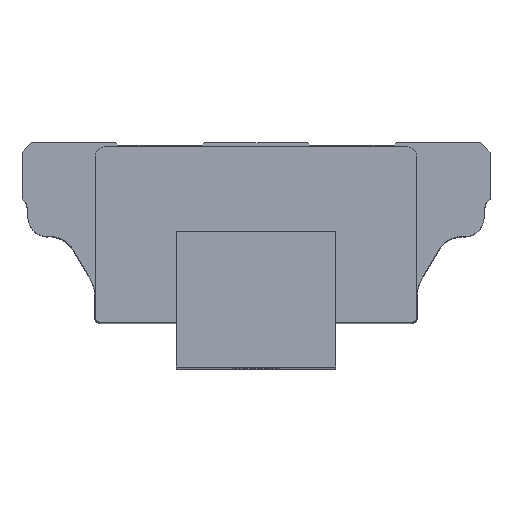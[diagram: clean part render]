
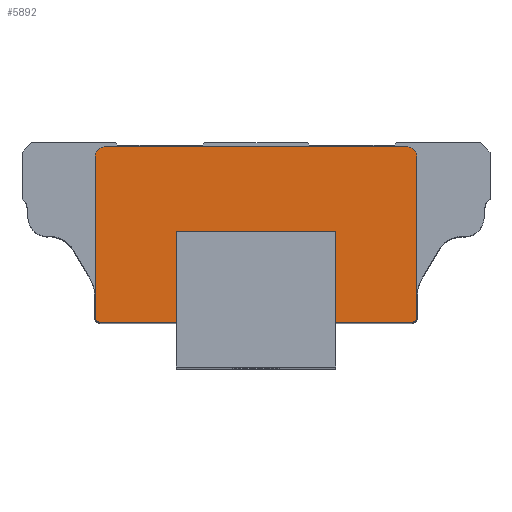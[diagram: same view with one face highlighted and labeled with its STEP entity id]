
A CAD part, top view. The second image highlights one B-rep face of the part: STEP entity #5892.
In plain terms, the highlighted planar face has unit normal (0, 0, 1).
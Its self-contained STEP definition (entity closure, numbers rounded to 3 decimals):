
#5509=CARTESIAN_POINT('',(-16.1,9.6,200.0));
#5510=VERTEX_POINT('',#5509);
#5517=CARTESIAN_POINT('',(-17.4,10.9,200.0));
#5518=VERTEX_POINT('',#5517);
#5519=CARTESIAN_POINT('',(-16.1,10.9,200.0));
#5520=DIRECTION('',(0.0,0.0,-1.0));
#5521=DIRECTION('',(1.0,0.0,0.0));
#5522=AXIS2_PLACEMENT_3D('',#5519,#5520,#5521);
#5523=CIRCLE('',#5522,1.3);
#5524=EDGE_CURVE('',#5510,#5518,#5523,.T.);
#5549=CARTESIAN_POINT('',(-17.4,45.15,200.0));
#5550=VERTEX_POINT('',#5549);
#5551=CARTESIAN_POINT('',(-17.4,10.9,200.0));
#5552=DIRECTION('',(0.0,1.0,0.0));
#5553=VECTOR('',#5552,1.0);
#5554=LINE('',#5551,#5553);
#5555=EDGE_CURVE('',#5518,#5550,#5554,.T.);
#5581=CARTESIAN_POINT('',(-15.4,47.15,200.0));
#5582=VERTEX_POINT('',#5581);
#5583=CARTESIAN_POINT('',(-15.4,45.15,200.0));
#5584=DIRECTION('',(0.0,0.0,-1.0));
#5585=DIRECTION('',(1.0,0.0,0.0));
#5586=AXIS2_PLACEMENT_3D('',#5583,#5584,#5585);
#5587=CIRCLE('',#5586,2.);
#5588=EDGE_CURVE('',#5550,#5582,#5587,.T.);
#5613=CARTESIAN_POINT('',(49.4,47.15,200.0));
#5614=VERTEX_POINT('',#5613);
#5615=CARTESIAN_POINT('',(-15.4,47.15,200.0));
#5616=DIRECTION('',(1.0,0.0,0.0));
#5617=VECTOR('',#5616,1.0);
#5618=LINE('',#5615,#5617);
#5619=EDGE_CURVE('',#5582,#5614,#5618,.T.);
#5645=CARTESIAN_POINT('',(51.4,45.15,200.0));
#5646=VERTEX_POINT('',#5645);
#5647=CARTESIAN_POINT('',(49.4,45.15,200.0));
#5648=DIRECTION('',(0.0,0.0,-1.0));
#5649=DIRECTION('',(1.0,0.0,0.0));
#5650=AXIS2_PLACEMENT_3D('',#5647,#5648,#5649);
#5651=CIRCLE('',#5650,2.);
#5652=EDGE_CURVE('',#5614,#5646,#5651,.T.);
#5677=CARTESIAN_POINT('',(51.4,10.9,200.0));
#5678=VERTEX_POINT('',#5677);
#5679=CARTESIAN_POINT('',(51.4,45.15,200.0));
#5680=DIRECTION('',(0.0,-1.0,0.0));
#5681=VECTOR('',#5680,1.0);
#5682=LINE('',#5679,#5681);
#5683=EDGE_CURVE('',#5646,#5678,#5682,.T.);
#5709=CARTESIAN_POINT('',(50.1,9.6,200.0));
#5710=VERTEX_POINT('',#5709);
#5711=CARTESIAN_POINT('',(50.1,10.9,200.0));
#5712=DIRECTION('',(0.0,0.0,-1.0));
#5713=DIRECTION('',(1.0,0.0,0.0));
#5714=AXIS2_PLACEMENT_3D('',#5711,#5712,#5713);
#5715=CIRCLE('',#5714,1.3);
#5716=EDGE_CURVE('',#5678,#5710,#5715,.T.);
#5741=CARTESIAN_POINT('',(34.0,9.6,200.0));
#5742=VERTEX_POINT('',#5741);
#5743=CARTESIAN_POINT('',(50.1,9.6,200.0));
#5744=DIRECTION('',(-1.0,0.0,0.0));
#5745=VECTOR('',#5744,1.0);
#5746=LINE('',#5743,#5745);
#5747=EDGE_CURVE('',#5710,#5742,#5746,.T.);
#5772=CARTESIAN_POINT('',(34.0,29.0,200.0));
#5773=VERTEX_POINT('',#5772);
#5774=CARTESIAN_POINT('',(34.0,9.6,200.0));
#5775=DIRECTION('',(0.0,1.0,0.0));
#5776=VECTOR('',#5775,1.0);
#5777=LINE('',#5774,#5776);
#5778=EDGE_CURVE('',#5742,#5773,#5777,.T.);
#5803=CARTESIAN_POINT('',(0.0,29.0,200.0));
#5804=VERTEX_POINT('',#5803);
#5805=CARTESIAN_POINT('',(34.0,29.0,200.0));
#5806=DIRECTION('',(-1.0,0.0,0.0));
#5807=VECTOR('',#5806,1.0);
#5808=LINE('',#5805,#5807);
#5809=EDGE_CURVE('',#5773,#5804,#5808,.T.);
#5834=CARTESIAN_POINT('',(0.0,9.6,200.0));
#5835=VERTEX_POINT('',#5834);
#5836=CARTESIAN_POINT('',(0.0,29.,200.0));
#5837=DIRECTION('',(0.0,-1.0,0.0));
#5838=VECTOR('',#5837,1.0);
#5839=LINE('',#5836,#5838);
#5840=EDGE_CURVE('',#5804,#5835,#5839,.T.);
#5863=CARTESIAN_POINT('',(0.0,9.6,200.0));
#5864=DIRECTION('',(-1.0,0.0,0.0));
#5865=VECTOR('',#5864,1.0);
#5866=LINE('',#5863,#5865);
#5867=EDGE_CURVE('',#5835,#5510,#5866,.T.);
#5873=CARTESIAN_POINT('',(-16.1,10.9,200.0));
#5874=DIRECTION('',(0.0,0.0,-1.0));
#5875=DIRECTION('',(-1.0,0.0,0.0));
#5876=AXIS2_PLACEMENT_3D('',#5873,#5874,#5875);
#5877=PLANE('',#5876);
#5878=ORIENTED_EDGE('',*,*,#5524,.F.);
#5879=ORIENTED_EDGE('',*,*,#5867,.F.);
#5880=ORIENTED_EDGE('',*,*,#5840,.F.);
#5881=ORIENTED_EDGE('',*,*,#5809,.F.);
#5882=ORIENTED_EDGE('',*,*,#5778,.F.);
#5883=ORIENTED_EDGE('',*,*,#5747,.F.);
#5884=ORIENTED_EDGE('',*,*,#5716,.F.);
#5885=ORIENTED_EDGE('',*,*,#5683,.F.);
#5886=ORIENTED_EDGE('',*,*,#5652,.F.);
#5887=ORIENTED_EDGE('',*,*,#5619,.F.);
#5888=ORIENTED_EDGE('',*,*,#5588,.F.);
#5889=ORIENTED_EDGE('',*,*,#5555,.F.);
#5890=EDGE_LOOP('',(#5878,#5879,#5880,#5881,#5882,#5883,#5884,#5885,#5886,#5887,#5888,#5889));
#5891=FACE_OUTER_BOUND('',#5890,.T.);
#5892=ADVANCED_FACE('',(#5891),#5877,.F.);
